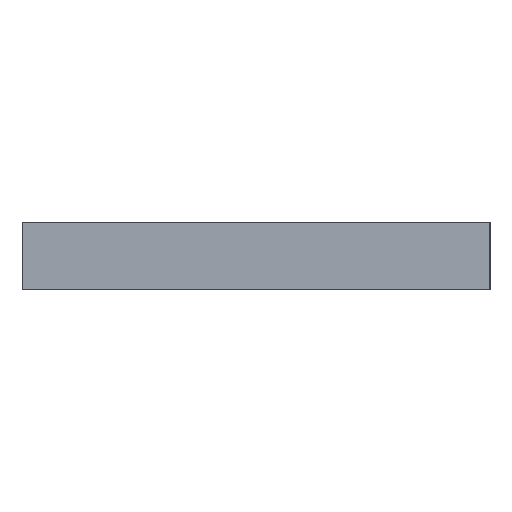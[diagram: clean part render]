
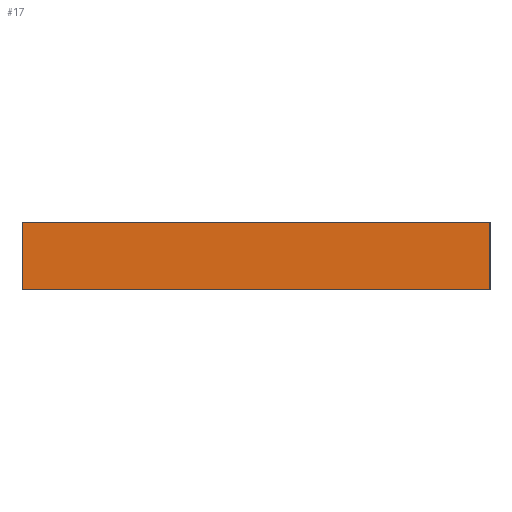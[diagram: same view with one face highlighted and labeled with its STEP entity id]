
A CAD part, left-side view. The second image highlights one B-rep face of the part: STEP entity #17.
In plain terms, the highlighted planar face has unit normal (-1, 0, 0).
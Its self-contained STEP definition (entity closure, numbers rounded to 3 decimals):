
#17 = ADVANCED_FACE('',(#18),#32,.F.);
#18 = FACE_BOUND('',#19,.F.);
#19 = EDGE_LOOP('',(#20,#55,#83,#111));
#20 = ORIENTED_EDGE('',*,*,#21,.F.);
#21 = EDGE_CURVE('',#22,#24,#26,.T.);
#22 = VERTEX_POINT('',#23);
#23 = CARTESIAN_POINT('',(-51.,-45.,-6.5));
#24 = VERTEX_POINT('',#25);
#25 = CARTESIAN_POINT('',(-51.,-45.,6.5));
#26 = SURFACE_CURVE('',#27,(#31,#43),.PCURVE_S1.);
#27 = LINE('',#28,#29);
#28 = CARTESIAN_POINT('',(-51.,-45.,-6.5));
#29 = VECTOR('',#30,1.);
#30 = DIRECTION('',(0.,0.,1.));
#31 = PCURVE('',#32,#37);
#32 = PLANE('',#33);
#33 = AXIS2_PLACEMENT_3D('',#34,#35,#36);
#34 = CARTESIAN_POINT('',(-51.,-45.,-6.5));
#35 = DIRECTION('',(1.,0.,0.));
#36 = DIRECTION('',(0.,0.,1.));
#37 = DEFINITIONAL_REPRESENTATION('',(#38),#42);
#38 = LINE('',#39,#40);
#39 = CARTESIAN_POINT('',(0.,0.));
#40 = VECTOR('',#41,1.);
#41 = DIRECTION('',(1.,0.));
#42 = ( GEOMETRIC_REPRESENTATION_CONTEXT(2) 
PARAMETRIC_REPRESENTATION_CONTEXT() REPRESENTATION_CONTEXT('2D SPACE',''
  ) );
#43 = PCURVE('',#44,#49);
#44 = PLANE('',#45);
#45 = AXIS2_PLACEMENT_3D('',#46,#47,#48);
#46 = CARTESIAN_POINT('',(-51.,-45.,-6.5));
#47 = DIRECTION('',(0.,1.,0.));
#48 = DIRECTION('',(0.,0.,1.));
#49 = DEFINITIONAL_REPRESENTATION('',(#50),#54);
#50 = LINE('',#51,#52);
#51 = CARTESIAN_POINT('',(0.,0.));
#52 = VECTOR('',#53,1.);
#53 = DIRECTION('',(1.,0.));
#54 = ( GEOMETRIC_REPRESENTATION_CONTEXT(2) 
PARAMETRIC_REPRESENTATION_CONTEXT() REPRESENTATION_CONTEXT('2D SPACE',''
  ) );
#55 = ORIENTED_EDGE('',*,*,#56,.T.);
#56 = EDGE_CURVE('',#22,#57,#59,.T.);
#57 = VERTEX_POINT('',#58);
#58 = CARTESIAN_POINT('',(-51.,45.,-6.5));
#59 = SURFACE_CURVE('',#60,(#64,#71),.PCURVE_S1.);
#60 = LINE('',#61,#62);
#61 = CARTESIAN_POINT('',(-51.,-45.,-6.5));
#62 = VECTOR('',#63,1.);
#63 = DIRECTION('',(0.,1.,0.));
#64 = PCURVE('',#32,#65);
#65 = DEFINITIONAL_REPRESENTATION('',(#66),#70);
#66 = LINE('',#67,#68);
#67 = CARTESIAN_POINT('',(0.,0.));
#68 = VECTOR('',#69,1.);
#69 = DIRECTION('',(0.,-1.));
#70 = ( GEOMETRIC_REPRESENTATION_CONTEXT(2) 
PARAMETRIC_REPRESENTATION_CONTEXT() REPRESENTATION_CONTEXT('2D SPACE',''
  ) );
#71 = PCURVE('',#72,#77);
#72 = PLANE('',#73);
#73 = AXIS2_PLACEMENT_3D('',#74,#75,#76);
#74 = CARTESIAN_POINT('',(-51.,-45.,-6.5));
#75 = DIRECTION('',(0.,0.,1.));
#76 = DIRECTION('',(1.,0.,0.));
#77 = DEFINITIONAL_REPRESENTATION('',(#78),#82);
#78 = LINE('',#79,#80);
#79 = CARTESIAN_POINT('',(0.,0.));
#80 = VECTOR('',#81,1.);
#81 = DIRECTION('',(0.,1.));
#82 = ( GEOMETRIC_REPRESENTATION_CONTEXT(2) 
PARAMETRIC_REPRESENTATION_CONTEXT() REPRESENTATION_CONTEXT('2D SPACE',''
  ) );
#83 = ORIENTED_EDGE('',*,*,#84,.T.);
#84 = EDGE_CURVE('',#57,#85,#87,.T.);
#85 = VERTEX_POINT('',#86);
#86 = CARTESIAN_POINT('',(-51.,45.,6.5));
#87 = SURFACE_CURVE('',#88,(#92,#99),.PCURVE_S1.);
#88 = LINE('',#89,#90);
#89 = CARTESIAN_POINT('',(-51.,45.,-6.5));
#90 = VECTOR('',#91,1.);
#91 = DIRECTION('',(0.,0.,1.));
#92 = PCURVE('',#32,#93);
#93 = DEFINITIONAL_REPRESENTATION('',(#94),#98);
#94 = LINE('',#95,#96);
#95 = CARTESIAN_POINT('',(0.,-90.));
#96 = VECTOR('',#97,1.);
#97 = DIRECTION('',(1.,0.));
#98 = ( GEOMETRIC_REPRESENTATION_CONTEXT(2) 
PARAMETRIC_REPRESENTATION_CONTEXT() REPRESENTATION_CONTEXT('2D SPACE',''
  ) );
#99 = PCURVE('',#100,#105);
#100 = PLANE('',#101);
#101 = AXIS2_PLACEMENT_3D('',#102,#103,#104);
#102 = CARTESIAN_POINT('',(-51.,45.,-6.5));
#103 = DIRECTION('',(0.,1.,0.));
#104 = DIRECTION('',(0.,0.,1.));
#105 = DEFINITIONAL_REPRESENTATION('',(#106),#110);
#106 = LINE('',#107,#108);
#107 = CARTESIAN_POINT('',(0.,0.));
#108 = VECTOR('',#109,1.);
#109 = DIRECTION('',(1.,0.));
#110 = ( GEOMETRIC_REPRESENTATION_CONTEXT(2) 
PARAMETRIC_REPRESENTATION_CONTEXT() REPRESENTATION_CONTEXT('2D SPACE',''
  ) );
#111 = ORIENTED_EDGE('',*,*,#112,.F.);
#112 = EDGE_CURVE('',#24,#85,#113,.T.);
#113 = SURFACE_CURVE('',#114,(#118,#125),.PCURVE_S1.);
#114 = LINE('',#115,#116);
#115 = CARTESIAN_POINT('',(-51.,-45.,6.5));
#116 = VECTOR('',#117,1.);
#117 = DIRECTION('',(0.,1.,0.));
#118 = PCURVE('',#32,#119);
#119 = DEFINITIONAL_REPRESENTATION('',(#120),#124);
#120 = LINE('',#121,#122);
#121 = CARTESIAN_POINT('',(13.,0.));
#122 = VECTOR('',#123,1.);
#123 = DIRECTION('',(0.,-1.));
#124 = ( GEOMETRIC_REPRESENTATION_CONTEXT(2) 
PARAMETRIC_REPRESENTATION_CONTEXT() REPRESENTATION_CONTEXT('2D SPACE',''
  ) );
#125 = PCURVE('',#126,#131);
#126 = PLANE('',#127);
#127 = AXIS2_PLACEMENT_3D('',#128,#129,#130);
#128 = CARTESIAN_POINT('',(-51.,-45.,6.5));
#129 = DIRECTION('',(0.,0.,1.));
#130 = DIRECTION('',(1.,0.,0.));
#131 = DEFINITIONAL_REPRESENTATION('',(#132),#136);
#132 = LINE('',#133,#134);
#133 = CARTESIAN_POINT('',(0.,0.));
#134 = VECTOR('',#135,1.);
#135 = DIRECTION('',(0.,1.));
#136 = ( GEOMETRIC_REPRESENTATION_CONTEXT(2) 
PARAMETRIC_REPRESENTATION_CONTEXT() REPRESENTATION_CONTEXT('2D SPACE',''
  ) );
